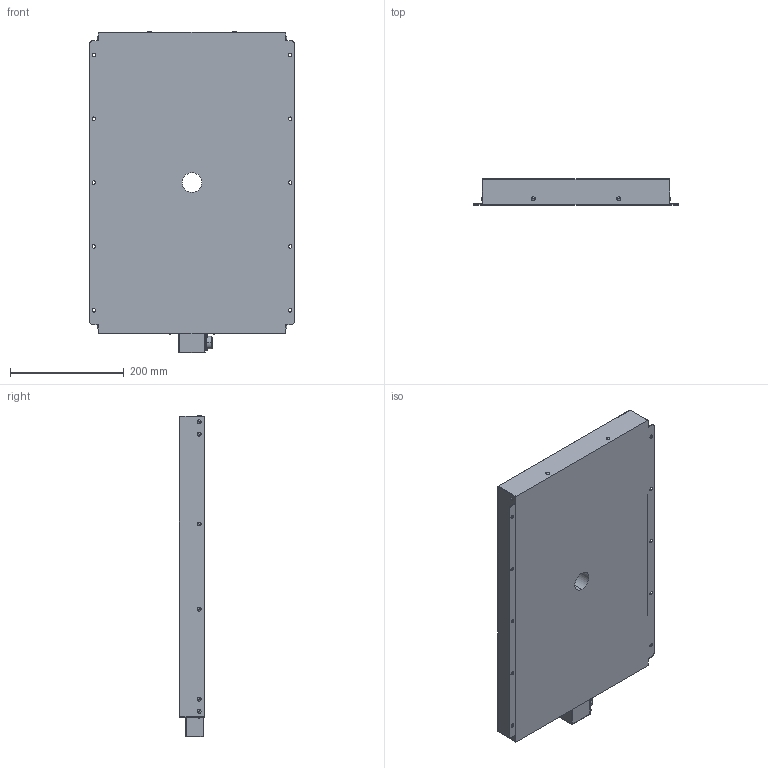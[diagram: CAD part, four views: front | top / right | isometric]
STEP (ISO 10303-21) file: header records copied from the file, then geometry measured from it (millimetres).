
FILE_DESCRIPTION (( 'STEP AP214' ), '1' );
FILE_NAME ('HDSBPA-500_300_-24-35D.STEP', '2023-07-28T00:28:02', ( '' ), ( '' ), 'SwSTEP 2.0', 'SolidWorks 2022', '' );
FILE_SCHEMA (( 'AUTOMOTIVE_DESIGN' ));
Length unit declared in the file: millimetre
Products named in the file (1): HDSBPA-500_300_-24-35D
Bounding box: 360 x 45 x 566.9 mm (x, y, z)
Volume: 7747918.6 mm3; surface area: 467926.1 mm2
Topology: 1 solids, 1 shells, 196 faces, 532 edges, 310 vertices
Faces by surface type: cylinder 98, sphere 56, plane 32, torus 8, cone 2
Entity records: 5724 total; most frequent: DIRECTION 1124, CARTESIAN_POINT 935, ORIENTED_EDGE 904, AXIS2_PLACEMENT_3D 475, EDGE_CURVE 452, VERTEX_POINT 286, CIRCLE 278, EDGE_LOOP 246
